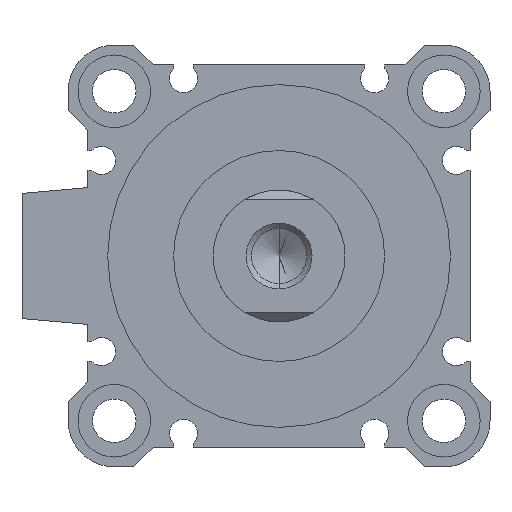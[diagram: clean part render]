
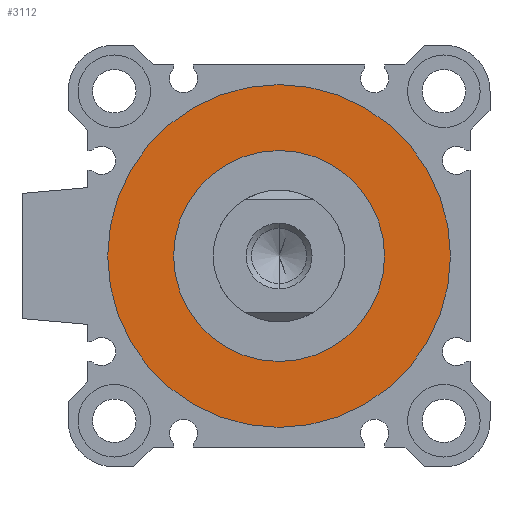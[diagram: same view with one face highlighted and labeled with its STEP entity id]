
A CAD part, left-side view. The second image highlights one B-rep face of the part: STEP entity #3112.
In plain terms, the highlighted planar face has unit normal (-1, 0, 0).
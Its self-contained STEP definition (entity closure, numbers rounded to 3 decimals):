
#237 = AXIS2_PLACEMENT_3D ( 'NONE', #304, #4471, #1483 ) ;
#295 = DIRECTION ( 'NONE',  ( 1., 0., 0. ) ) ;
#304 = CARTESIAN_POINT ( 'NONE',  ( 3., 0., 0. ) ) ;
#541 = AXIS2_PLACEMENT_3D ( 'NONE', #632, #295, #2613 ) ;
#597 = AXIS2_PLACEMENT_3D ( 'NONE', #1510, #3053, #4187 ) ;
#632 = CARTESIAN_POINT ( 'NONE',  ( 3., 0., 0. ) ) ;
#645 = AXIS2_PLACEMENT_3D ( 'NONE', #2805, #3986, #2448 ) ;
#967 = EDGE_CURVE ( 'NONE', #1585, #3730, #4379, .T. ) ;
#1083 = PLANE ( 'NONE',  #237 ) ;
#1297 = CARTESIAN_POINT ( 'NONE',  ( 3., 0., -26. ) ) ;
#1417 = EDGE_CURVE ( 'NONE', #1592, #4775, #4812, .T. ) ;
#1483 = DIRECTION ( 'NONE',  ( 0., 1., 0. ) ) ;
#1510 = CARTESIAN_POINT ( 'NONE',  ( 3., 0., 0. ) ) ;
#1552 = ORIENTED_EDGE ( 'NONE', *, *, #1417, .F. ) ;
#1585 = VERTEX_POINT ( 'NONE', #3157 ) ;
#1592 = VERTEX_POINT ( 'NONE', #1297 ) ;
#1787 = CIRCLE ( 'NONE', #4790, 16. ) ;
#1861 = FACE_OUTER_BOUND ( 'NONE', #3049, .T. ) ;
#1907 = ORIENTED_EDGE ( 'NONE', *, *, #4773, .F. ) ;
#2448 = DIRECTION ( 'NONE',  ( 0., 0., -1. ) ) ;
#2512 = DIRECTION ( 'NONE',  ( 1., 0., 0. ) ) ;
#2561 = EDGE_CURVE ( 'NONE', #3730, #1585, #1787, .T. ) ;
#2613 = DIRECTION ( 'NONE',  ( 0., 0., -1. ) ) ;
#2805 = CARTESIAN_POINT ( 'NONE',  ( 3., 0., 0. ) ) ;
#3049 = EDGE_LOOP ( 'NONE', ( #1907, #1552 ) ) ;
#3053 = DIRECTION ( 'NONE',  ( 1., 0., 0. ) ) ;
#3112 = ADVANCED_FACE ( 'NONE', ( #1861, #3774 ), #1083, .F. ) ;
#3154 = ORIENTED_EDGE ( 'NONE', *, *, #2561, .T. ) ;
#3157 = CARTESIAN_POINT ( 'NONE',  ( 3., 0., -16. ) ) ;
#3466 = CARTESIAN_POINT ( 'NONE',  ( 3., 0., 16. ) ) ;
#3651 = EDGE_LOOP ( 'NONE', ( #3154, #3744 ) ) ;
#3730 = VERTEX_POINT ( 'NONE', #3466 ) ;
#3744 = ORIENTED_EDGE ( 'NONE', *, *, #967, .T. ) ;
#3774 = FACE_BOUND ( 'NONE', #3651, .T. ) ;
#3795 = CARTESIAN_POINT ( 'NONE',  ( 3., 0., 26. ) ) ;
#3847 = CIRCLE ( 'NONE', #541, 26. ) ;
#3951 = CARTESIAN_POINT ( 'NONE',  ( 3., 0., 0. ) ) ;
#3986 = DIRECTION ( 'NONE',  ( 1., 0., 0. ) ) ;
#4187 = DIRECTION ( 'NONE',  ( 0., 0., -1. ) ) ;
#4379 = CIRCLE ( 'NONE', #645, 16. ) ;
#4471 = DIRECTION ( 'NONE',  ( 1., 0., 0. ) ) ;
#4715 = DIRECTION ( 'NONE',  ( 0., 0., -1. ) ) ;
#4773 = EDGE_CURVE ( 'NONE', #4775, #1592, #3847, .T. ) ;
#4775 = VERTEX_POINT ( 'NONE', #3795 ) ;
#4790 = AXIS2_PLACEMENT_3D ( 'NONE', #3951, #2512, #4715 ) ;
#4812 = CIRCLE ( 'NONE', #597, 26. ) ;
